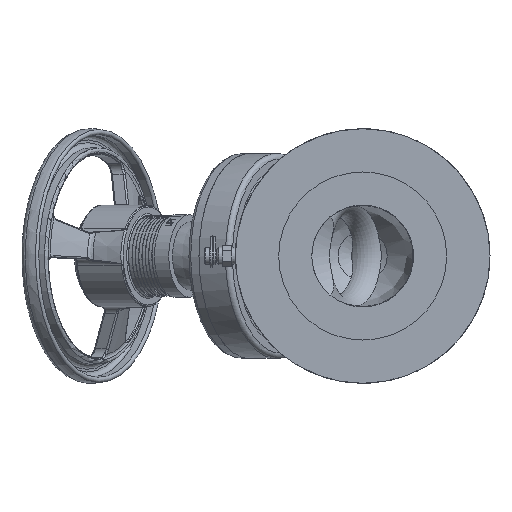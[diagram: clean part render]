
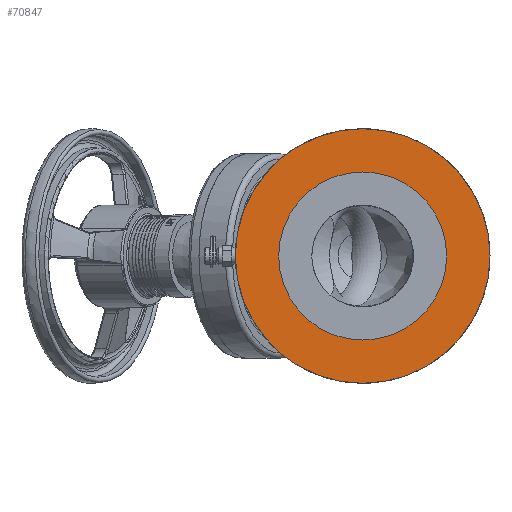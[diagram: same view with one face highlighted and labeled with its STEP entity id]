
A CAD part, left-side view. The second image highlights one B-rep face of the part: STEP entity #70847.
In plain terms, the highlighted planar face has unit normal (-1, 0, 0).
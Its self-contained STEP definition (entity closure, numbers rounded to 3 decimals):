
#70820=CARTESIAN_POINT('',(-307.,-83.,0.0));
#70821=DIRECTION('',(-1.0,0.0,0.0));
#70822=DIRECTION('',(0.0,0.0,1.0));
#70823=AXIS2_PLACEMENT_3D('',#70820,#70821,#70822);
#70824=PLANE('',#70823);
#70825=CARTESIAN_POINT('',(-307.,-100.,0.0));
#70826=VERTEX_POINT('',#70825);
#70827=CARTESIAN_POINT('',(-307.,0.,0.0));
#70828=DIRECTION('',(-1.0,0.0,0.0));
#70829=DIRECTION('',(0.0,-1.0,0.0));
#70830=AXIS2_PLACEMENT_3D('',#70827,#70828,#70829);
#70831=CIRCLE('',#70830,100.);
#70832=EDGE_CURVE('',#70826,#70826,#70831,.T.);
#70833=ORIENTED_EDGE('',*,*,#70832,.T.);
#70834=EDGE_LOOP('',(#70833));
#70835=FACE_OUTER_BOUND('',#70834,.T.);
#70836=CARTESIAN_POINT('',(-307.,-66.,0.0));
#70837=VERTEX_POINT('',#70836);
#70838=CARTESIAN_POINT('',(-307.,0.,0.0));
#70839=DIRECTION('',(-1.0,0.0,0.0));
#70840=DIRECTION('',(0.0,-1.0,0.0));
#70841=AXIS2_PLACEMENT_3D('',#70838,#70839,#70840);
#70842=CIRCLE('',#70841,66.);
#70843=EDGE_CURVE('',#70837,#70837,#70842,.T.);
#70844=ORIENTED_EDGE('',*,*,#70843,.F.);
#70845=EDGE_LOOP('',(#70844));
#70846=FACE_BOUND('',#70845,.T.);
#70847=ADVANCED_FACE('',(#70835,#70846),#70824,.T.);
